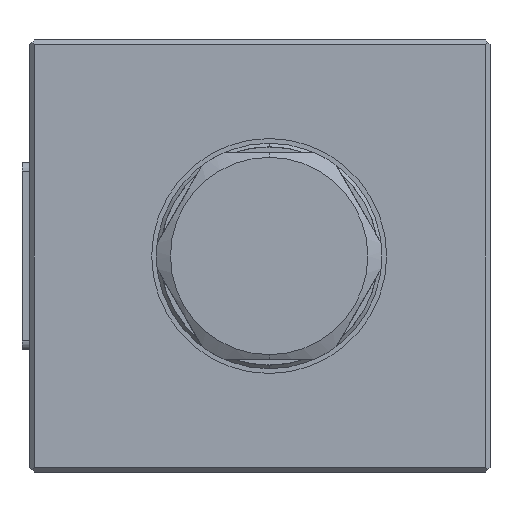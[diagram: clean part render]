
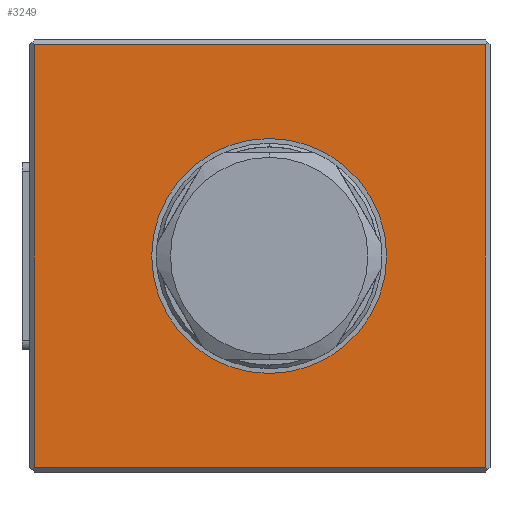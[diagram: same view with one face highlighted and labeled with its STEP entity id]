
A CAD part, left-side view. The second image highlights one B-rep face of the part: STEP entity #3249.
In plain terms, the highlighted planar face has unit normal (-1, 0, 0).
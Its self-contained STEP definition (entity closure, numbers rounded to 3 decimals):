
#205 = CARTESIAN_POINT ( 'NONE',  ( -34., -0.5, 12.5 ) ) ;
#1040 = CARTESIAN_POINT ( 'NONE',  ( -34., 25., -22.5 ) ) ;
#1100 = CARTESIAN_POINT ( 'NONE',  ( -34., 25., -23. ) ) ;
#1399 = CARTESIAN_POINT ( 'NONE',  ( -34., 24.5, 22.5 ) ) ;
#1507 = VERTEX_POINT ( 'NONE', #5599 ) ;
#2009 = CARTESIAN_POINT ( 'NONE',  ( -34., -0.5, 0. ) ) ;
#2177 = CARTESIAN_POINT ( 'NONE',  ( -34., -0.5, 0. ) ) ;
#2302 = FACE_BOUND ( 'NONE', #7937, .T. ) ;
#2688 = FACE_OUTER_BOUND ( 'NONE', #7710, .T. ) ;
#2722 = LINE ( 'NONE', #1040, #7290 ) ;
#2941 = CARTESIAN_POINT ( 'NONE',  ( -34., 24.5, -23. ) ) ;
#3249 = ADVANCED_FACE ( 'NONE', ( #2688, #2302 ), #5536, .T. ) ;
#3904 = CIRCLE ( 'NONE', #13195, 12.5 ) ;
#4364 = EDGE_CURVE ( 'NONE', #19690, #10153, #5709, .T. ) ;
#4829 = EDGE_CURVE ( 'NONE', #1507, #9944, #2722, .T. ) ;
#4995 = DIRECTION ( 'NONE',  ( 0., 0., -1. ) ) ;
#5246 = ORIENTED_EDGE ( 'NONE', *, *, #15570, .T. ) ;
#5536 = PLANE ( 'NONE',  #7257 ) ;
#5599 = CARTESIAN_POINT ( 'NONE',  ( -34., 24.5, -22.5 ) ) ;
#5709 = CIRCLE ( 'NONE', #14717, 12.5 ) ;
#5822 = VERTEX_POINT ( 'NONE', #14411 ) ;
#7257 = AXIS2_PLACEMENT_3D ( 'NONE', #1100, #17784, #8803 ) ;
#7290 = VECTOR ( 'NONE', #8844, 1000. ) ;
#7455 = EDGE_CURVE ( 'NONE', #5822, #10929, #16948, .T. ) ;
#7692 = ORIENTED_EDGE ( 'NONE', *, *, #4364, .T. ) ;
#7710 = EDGE_LOOP ( 'NONE', ( #18496, #5246, #13739, #8667 ) ) ;
#7937 = EDGE_LOOP ( 'NONE', ( #7692, #9226 ) ) ;
#8108 = DIRECTION ( 'NONE',  ( 0., 0., -1. ) ) ;
#8282 = CARTESIAN_POINT ( 'NONE',  ( -34., -0.5, -12.5 ) ) ;
#8327 = EDGE_CURVE ( 'NONE', #10929, #1507, #13678, .T. ) ;
#8404 = CARTESIAN_POINT ( 'NONE',  ( -34., -23.5, -22.5 ) ) ;
#8667 = ORIENTED_EDGE ( 'NONE', *, *, #8327, .T. ) ;
#8800 = CARTESIAN_POINT ( 'NONE',  ( -34., 25., 22.5 ) ) ;
#8803 = DIRECTION ( 'NONE',  ( 0., -1., 0. ) ) ;
#8844 = DIRECTION ( 'NONE',  ( 0., -1., 0. ) ) ;
#9226 = ORIENTED_EDGE ( 'NONE', *, *, #16423, .T. ) ;
#9944 = VERTEX_POINT ( 'NONE', #8404 ) ;
#10153 = VERTEX_POINT ( 'NONE', #205 ) ;
#10929 = VERTEX_POINT ( 'NONE', #1399 ) ;
#11367 = LINE ( 'NONE', #19618, #15986 ) ;
#11664 = DIRECTION ( 'NONE',  ( 0., 0., 1. ) ) ;
#12390 = DIRECTION ( 'NONE',  ( 0., 0., -1. ) ) ;
#12527 = VECTOR ( 'NONE', #12390, 1000. ) ;
#13195 = AXIS2_PLACEMENT_3D ( 'NONE', #2009, #14298, #8108 ) ;
#13678 = LINE ( 'NONE', #2941, #12527 ) ;
#13739 = ORIENTED_EDGE ( 'NONE', *, *, #7455, .T. ) ;
#14298 = DIRECTION ( 'NONE',  ( 1., 0., 0. ) ) ;
#14355 = DIRECTION ( 'NONE',  ( 1., 0., 0. ) ) ;
#14411 = CARTESIAN_POINT ( 'NONE',  ( -34., -23.5, 22.5 ) ) ;
#14717 = AXIS2_PLACEMENT_3D ( 'NONE', #2177, #14355, #4995 ) ;
#15570 = EDGE_CURVE ( 'NONE', #9944, #5822, #11367, .T. ) ;
#15986 = VECTOR ( 'NONE', #11664, 1000. ) ;
#16423 = EDGE_CURVE ( 'NONE', #10153, #19690, #3904, .T. ) ;
#16841 = DIRECTION ( 'NONE',  ( 0., 1., 0. ) ) ;
#16948 = LINE ( 'NONE', #8800, #17278 ) ;
#17278 = VECTOR ( 'NONE', #16841, 1000. ) ;
#17784 = DIRECTION ( 'NONE',  ( -1., 0., 0. ) ) ;
#18496 = ORIENTED_EDGE ( 'NONE', *, *, #4829, .T. ) ;
#19618 = CARTESIAN_POINT ( 'NONE',  ( -34., -23.5, -23. ) ) ;
#19690 = VERTEX_POINT ( 'NONE', #8282 ) ;
